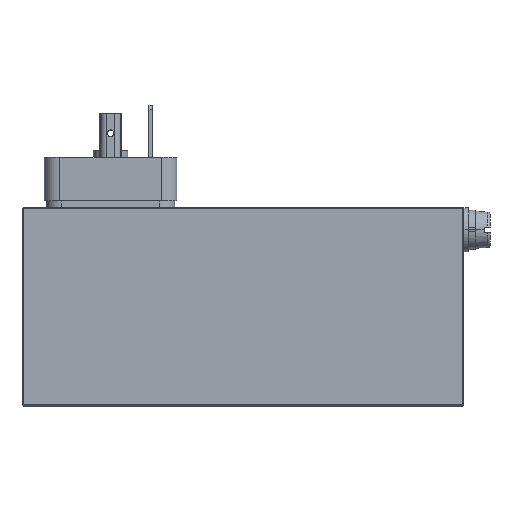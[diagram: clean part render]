
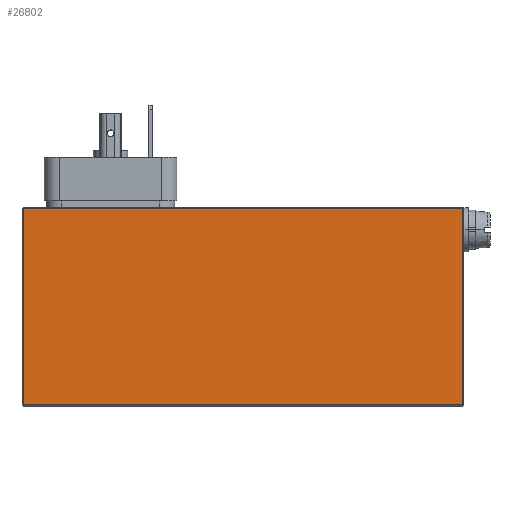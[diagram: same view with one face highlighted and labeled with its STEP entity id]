
A CAD part, top view. The second image highlights one B-rep face of the part: STEP entity #26802.
In plain terms, the highlighted planar face has unit normal (0, 0, 1).
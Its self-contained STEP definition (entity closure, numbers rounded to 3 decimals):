
#23 = CARTESIAN_POINT ( 'NONE',  ( 0.3, -22.2, 22.5 ) ) ;
#2098 = DIRECTION ( 'NONE',  ( -1., 0., 0. ) ) ;
#4348 = ORIENTED_EDGE ( 'NONE', *, *, #17760, .T. ) ;
#5091 = CARTESIAN_POINT ( 'NONE',  ( 100., 22.2, 22.5 ) ) ;
#5756 = DIRECTION ( 'NONE',  ( 0., 0., -1. ) ) ;
#6837 = LINE ( 'NONE', #13948, #22313 ) ;
#9608 = CARTESIAN_POINT ( 'NONE',  ( 99.7, -22.2, 22.5 ) ) ;
#10941 = CARTESIAN_POINT ( 'NONE',  ( 100., -22.2, 22.5 ) ) ;
#11557 = PLANE ( 'NONE',  #27301 ) ;
#11631 = VECTOR ( 'NONE', #13935, 1000. ) ;
#12322 = VERTEX_POINT ( 'NONE', #34350 ) ;
#13681 = CARTESIAN_POINT ( 'NONE',  ( 99.7, 22.2, 22.5 ) ) ;
#13935 = DIRECTION ( 'NONE',  ( 1., 0., 0. ) ) ;
#13948 = CARTESIAN_POINT ( 'NONE',  ( 99.7, -22.5, 22.5 ) ) ;
#15799 = CARTESIAN_POINT ( 'NONE',  ( 0.3, -22.5, 22.5 ) ) ;
#15818 = EDGE_CURVE ( 'NONE', #12322, #30003, #17416, .T. ) ;
#17416 = LINE ( 'NONE', #15799, #32674 ) ;
#17760 = EDGE_CURVE ( 'NONE', #21882, #12322, #32547, .T. ) ;
#19356 = LINE ( 'NONE', #10941, #11631 ) ;
#19672 = EDGE_CURVE ( 'NONE', #31603, #21882, #6837, .T. ) ;
#20880 = ORIENTED_EDGE ( 'NONE', *, *, #15818, .T. ) ;
#21458 = ORIENTED_EDGE ( 'NONE', *, *, #19672, .T. ) ;
#21581 = EDGE_CURVE ( 'NONE', #30003, #31603, #19356, .T. ) ;
#21882 = VERTEX_POINT ( 'NONE', #13681 ) ;
#22313 = VECTOR ( 'NONE', #33920, 1000. ) ;
#23176 = CARTESIAN_POINT ( 'NONE',  ( 100., -22.5, 22.5 ) ) ;
#23373 = ORIENTED_EDGE ( 'NONE', *, *, #21581, .T. ) ;
#26053 = DIRECTION ( 'NONE',  ( -1., 0., 0. ) ) ;
#26802 = ADVANCED_FACE ( 'NONE', ( #32362 ), #11557, .F. ) ;
#27301 = AXIS2_PLACEMENT_3D ( 'NONE', #23176, #5756, #26053 ) ;
#30003 = VERTEX_POINT ( 'NONE', #23 ) ;
#31528 = EDGE_LOOP ( 'NONE', ( #23373, #21458, #4348, #20880 ) ) ;
#31603 = VERTEX_POINT ( 'NONE', #9608 ) ;
#31680 = VECTOR ( 'NONE', #2098, 1000. ) ;
#32362 = FACE_OUTER_BOUND ( 'NONE', #31528, .T. ) ;
#32547 = LINE ( 'NONE', #5091, #31680 ) ;
#32674 = VECTOR ( 'NONE', #35903, 1000. ) ;
#33920 = DIRECTION ( 'NONE',  ( 0., 1., 0. ) ) ;
#34350 = CARTESIAN_POINT ( 'NONE',  ( 0.3, 22.2, 22.5 ) ) ;
#35903 = DIRECTION ( 'NONE',  ( 0., -1., 0. ) ) ;
